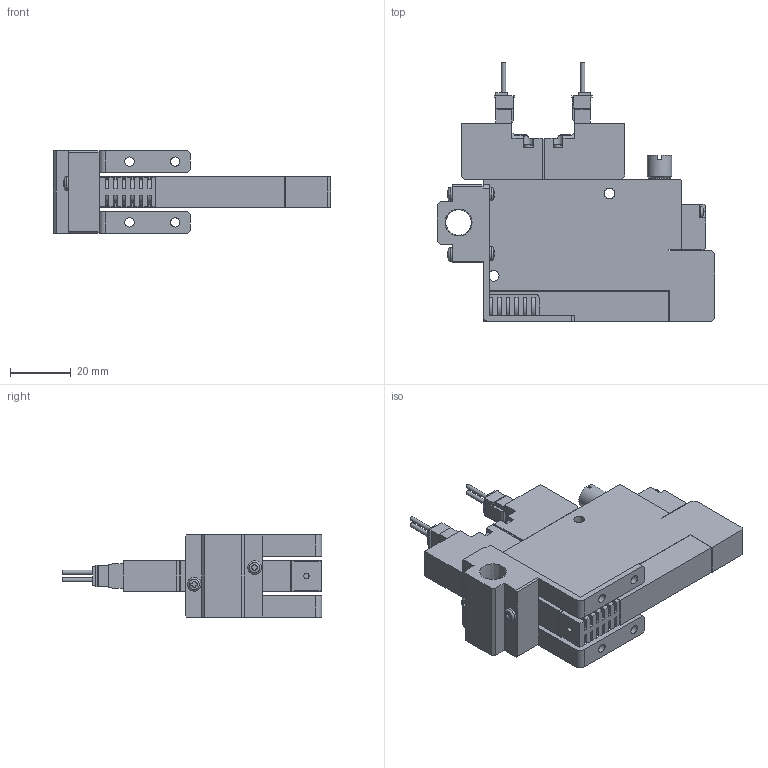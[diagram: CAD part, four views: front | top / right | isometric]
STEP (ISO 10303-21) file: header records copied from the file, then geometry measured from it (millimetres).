
FILE_DESCRIPTION(('STEP AP203'),'1');
FILE_NAME('5SS101_3D.stp','2024-09-04T06:24:13',(' '),(' '),'Spatial InterOp 3D',' ',' ');
FILE_SCHEMA(('CONFIG_CONTROL_DESIGN'));
Length unit declared in the file: millimetre
Products named in the file (5): BSC1M※※ZZ※5SS101; Solenoid valve S; Pressure Sensor ZZ; Unit-S; BaseMS10R
Assembly tree (4 placements, depth 2):
  BSC1M※※ZZ※5SS101
    Solenoid valve S
    Pressure Sensor ZZ
    Unit-S
    BaseMS10R
Bounding box: 91 x 85.05 x 27 mm (x, y, z)
Volume: 49808 mm3; surface area: 22053.9 mm2
Topology: 4 solids, 4 shells, 530 faces, 1448 edges, 958 vertices
Faces by surface type: plane 380, cylinder 127, sphere 8, torus 8, cone 7
Full cylindrical faces by diameter (mm): 1.4 x4, 1.8 x1, 2.5 x2, 3 x8, 3.5 x6, 4 x1, 4.134 x2, 4.5 x6, 5.5 x1, 7 x1, 7.7 x1, 8 x1, 8.422 x1
Entity records: 17036 total; most frequent: CARTESIAN_POINT 3522, ORIENTED_EDGE 2742, DIRECTION 2660, EDGE_CURVE 1371, LINE 1038, VECTOR 1038, VERTEX_POINT 939, AXIS2_PLACEMENT_3D 811
